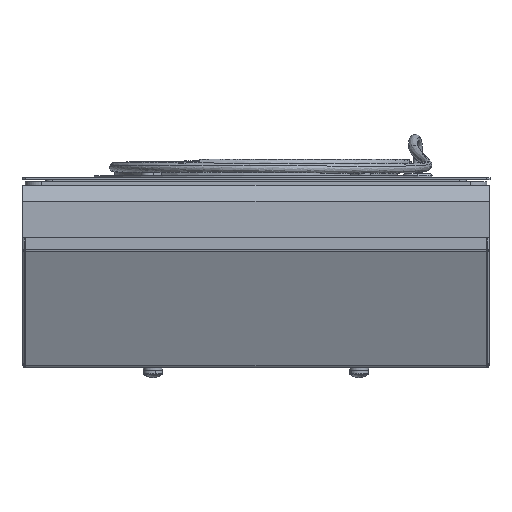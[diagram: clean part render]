
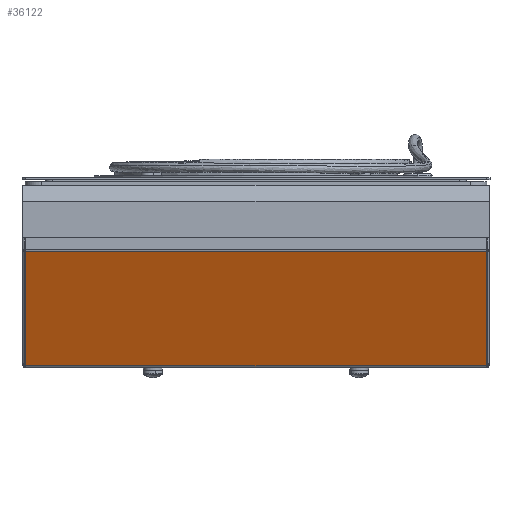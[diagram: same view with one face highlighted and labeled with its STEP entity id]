
A CAD part, front view. The second image highlights one B-rep face of the part: STEP entity #36122.
In plain terms, the highlighted planar face has unit normal (0, -0.92, -0.391) as drawn and (-0.921, 0, -0.391) by its records, which use the part's own axes.
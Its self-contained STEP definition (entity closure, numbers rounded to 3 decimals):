
#182 = ORIENTED_EDGE ( 'NONE', *, *, #16597, .T. ) ;
#1892 = DIRECTION ( 'NONE',  ( 0.391, 0., -0.921 ) ) ;
#2168 = DIRECTION ( 'NONE',  ( 0.391, 0., -0.921 ) ) ;
#2366 = LINE ( 'NONE', #26287, #25757 ) ;
#3067 = VERTEX_POINT ( 'NONE', #21711 ) ;
#4542 = VECTOR ( 'NONE', #1892, 1000. ) ;
#5958 = VECTOR ( 'NONE', #7935, 1000. ) ;
#7196 = CARTESIAN_POINT ( 'NONE',  ( -157.146, 145., -79.51 ) ) ;
#7852 = ORIENTED_EDGE ( 'NONE', *, *, #22917, .T. ) ;
#7933 = VERTEX_POINT ( 'NONE', #26539 ) ;
#7935 = DIRECTION ( 'NONE',  ( -0.391, 0., 0.921 ) ) ;
#8905 = ORIENTED_EDGE ( 'NONE', *, *, #32901, .F. ) ;
#9077 = DIRECTION ( 'NONE',  ( 0., 1., 0. ) ) ;
#9750 = VERTEX_POINT ( 'NONE', #17412 ) ;
#9984 = ORIENTED_EDGE ( 'NONE', *, *, #10277, .F. ) ;
#10124 = VECTOR ( 'NONE', #34541, 1000. ) ;
#10193 = CARTESIAN_POINT ( 'NONE',  ( -187.341, 147., -8.375 ) ) ;
#10277 = EDGE_CURVE ( 'NONE', #25096, #24527, #11942, .T. ) ;
#10638 = EDGE_CURVE ( 'NONE', #25096, #13939, #12442, .T. ) ;
#10780 = DIRECTION ( 'NONE',  ( 0., 1., 0. ) ) ;
#11942 = LINE ( 'NONE', #23528, #24304 ) ;
#12442 = LINE ( 'NONE', #15205, #31823 ) ;
#13563 = CARTESIAN_POINT ( 'NONE',  ( -157.146, 147., -79.51 ) ) ;
#13939 = VERTEX_POINT ( 'NONE', #16192 ) ;
#14380 = CARTESIAN_POINT ( 'NONE',  ( -156.606, -145., -80.781 ) ) ;
#14549 = VERTEX_POINT ( 'NONE', #7196 ) ;
#15138 = EDGE_CURVE ( 'NONE', #30627, #24527, #18687, .T. ) ;
#15205 = CARTESIAN_POINT ( 'NONE',  ( -157.146, 147., -79.51 ) ) ;
#15555 = ORIENTED_EDGE ( 'NONE', *, *, #35069, .F. ) ;
#16192 = CARTESIAN_POINT ( 'NONE',  ( -157.146, -145.434, -79.51 ) ) ;
#16597 = EDGE_CURVE ( 'NONE', #14549, #30627, #2366, .T. ) ;
#17412 = CARTESIAN_POINT ( 'NONE',  ( -157.146, 145.434, -79.51 ) ) ;
#18114 = CARTESIAN_POINT ( 'NONE',  ( -156.606, 147., -80.781 ) ) ;
#18687 = LINE ( 'NONE', #18114, #10124 ) ;
#18759 = CARTESIAN_POINT ( 'NONE',  ( -187.5, 147., -8. ) ) ;
#19138 = DIRECTION ( 'NONE',  ( -0.921, 0., -0.391 ) ) ;
#21711 = CARTESIAN_POINT ( 'NONE',  ( -187.341, 145.434, -8.375 ) ) ;
#21736 = AXIS2_PLACEMENT_3D ( 'NONE', #18759, #19138, #31324 ) ;
#22168 = LINE ( 'NONE', #10193, #28566 ) ;
#22917 = EDGE_CURVE ( 'NONE', #7933, #3067, #22168, .T. ) ;
#23528 = CARTESIAN_POINT ( 'NONE',  ( -187.5, -145., -8. ) ) ;
#24304 = VECTOR ( 'NONE', #32346, 1000. ) ;
#24527 = VERTEX_POINT ( 'NONE', #14380 ) ;
#25060 = ORIENTED_EDGE ( 'NONE', *, *, #15138, .T. ) ;
#25096 = VERTEX_POINT ( 'NONE', #31168 ) ;
#25417 = CARTESIAN_POINT ( 'NONE',  ( -190.626, -145.434, -0.636 ) ) ;
#25535 = EDGE_CURVE ( 'NONE', #7933, #13939, #31309, .T. ) ;
#25757 = VECTOR ( 'NONE', #2168, 1000. ) ;
#26287 = CARTESIAN_POINT ( 'NONE',  ( -187.5, 145., -8. ) ) ;
#26539 = CARTESIAN_POINT ( 'NONE',  ( -187.341, -145.434, -8.375 ) ) ;
#26764 = DIRECTION ( 'NONE',  ( 0., -1., 0. ) ) ;
#28566 = VECTOR ( 'NONE', #9077, 1000. ) ;
#30024 = ORIENTED_EDGE ( 'NONE', *, *, #25535, .F. ) ;
#30627 = VERTEX_POINT ( 'NONE', #35213 ) ;
#31168 = CARTESIAN_POINT ( 'NONE',  ( -157.146, -145., -79.51 ) ) ;
#31216 = VECTOR ( 'NONE', #10780, 1000. ) ;
#31309 = LINE ( 'NONE', #25417, #4542 ) ;
#31324 = DIRECTION ( 'NONE',  ( -0.391, 0., 0.921 ) ) ;
#31406 = LINE ( 'NONE', #13563, #31216 ) ;
#31631 = EDGE_LOOP ( 'NONE', ( #30024, #7852, #15555, #8905, #182, #25060, #9984, #34050 ) ) ;
#31823 = VECTOR ( 'NONE', #26764, 1000. ) ;
#32346 = DIRECTION ( 'NONE',  ( 0.391, 0., -0.921 ) ) ;
#32901 = EDGE_CURVE ( 'NONE', #14549, #9750, #31406, .T. ) ;
#34024 = PLANE ( 'NONE',  #21736 ) ;
#34050 = ORIENTED_EDGE ( 'NONE', *, *, #10638, .T. ) ;
#34224 = FACE_OUTER_BOUND ( 'NONE', #31631, .T. ) ;
#34541 = DIRECTION ( 'NONE',  ( 0., -1., 0. ) ) ;
#34802 = CARTESIAN_POINT ( 'NONE',  ( -190.626, 145.434, -0.636 ) ) ;
#35069 = EDGE_CURVE ( 'NONE', #9750, #3067, #37753, .T. ) ;
#35213 = CARTESIAN_POINT ( 'NONE',  ( -156.606, 145., -80.781 ) ) ;
#36122 = ADVANCED_FACE ( 'NONE', ( #34224 ), #34024, .T. ) ;
#37753 = LINE ( 'NONE', #34802, #5958 ) ;
